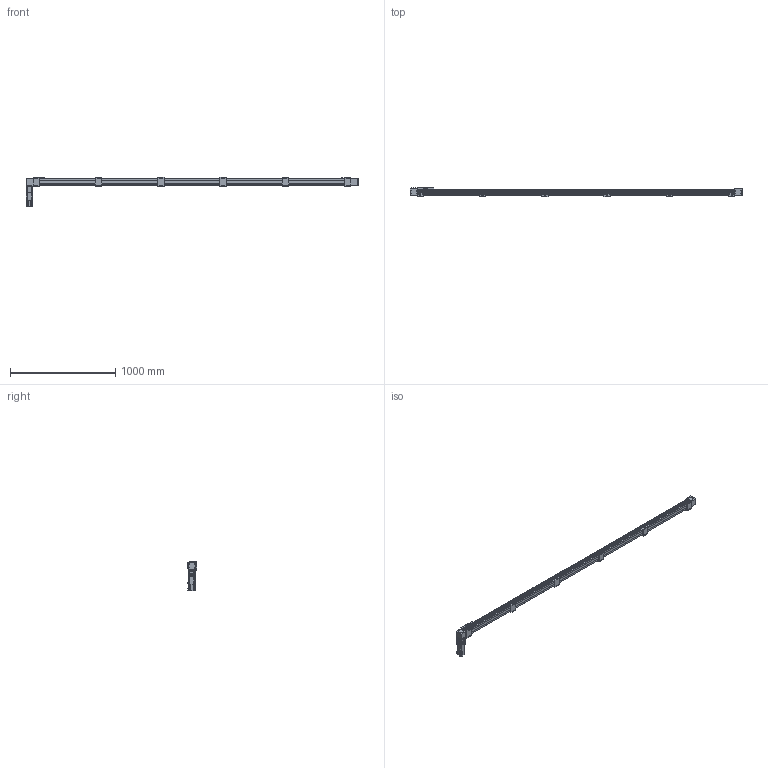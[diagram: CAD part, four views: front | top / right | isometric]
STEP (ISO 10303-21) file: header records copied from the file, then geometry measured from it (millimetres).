
FILE_DESCRIPTION(/* description */ ('STEP AP214'),/* implementation_level */ '2;1');
FILE_NAME(/* name */ 'SK60-P13-S2850-BR-T40-C1-N(0)',/* time_stamp */ '2023-04-06T04:03:29+02:00',/* author */ ('License CC BY-ND 4.0'),/* organization */ ('CADENAS'),/* preprocessor_version */ 'ST-DEVELOPER v19.3',/* originating_system */ 'PARTsolutions',/* authorisation */ ' ');
FILE_SCHEMA (('AUTOMOTIVE_DESIGN {1 0 10303 214 3 1 1}'));
Length unit declared in the file: millimetre
Products named in the file (11): SK60-P13-S2850-BR-T40-C1-N(0); PSC140-sensor; SK60-S450_seat; SK60-S450-BL-C1_slider; SK60_body3; SK60_body6; SK60-BL_body2; T40-p1; SK60_body5; SK60_body4; SK60-S2850-BR-C1_body
Assembly tree (21 placements, depth 2):
  SK60-P13-S2850-BR-T40-C1-N(0)
    PSC140-sensor  x3
    SK60-S450_seat  x6
    SK60-S450-BL-C1_slider
    SK60_body3  x3
    SK60_body6  x2
    SK60-BL_body2  x2
    T40-p1
    SK60_body5
    SK60_body4
    SK60-S2850-BR-C1_body
Bounding box: 3150 x 90 x 279.1 mm (x, y, z)
Volume: 11294422 mm3; surface area: 1363361.4 mm2
Topology: 21 solids, 25 shells, 1010 faces, 2501 edges, 1650 vertices
Faces by surface type: plane 640, cylinder 330, cone 38, torus 2
Full cylindrical faces by diameter (mm): 2.8 x3, 3.3 x4, 4.2 x8, 4.5 x26, 4.6 x3, 4.917 x32, 5 x2, 5.478 x4, 5.5 x35, 6.5 x12, 8 x4, 8.5 x4, 9.988 x4, 10 x24, 13.556 x1, 14 x1, 14.586 x1, 19.692 x1, 38.432 x2, 43 x1, 44 x3, 47 x2, 50 x2
Entity records: 19403 total; most frequent: DIRECTION 3300, CARTESIAN_POINT 3293, ORIENTED_EDGE 3050, EDGE_CURVE 1525, AXIS2_PLACEMENT_3D 1104, LINE 1092, VECTOR 1092, VERTEX_POINT 1077
